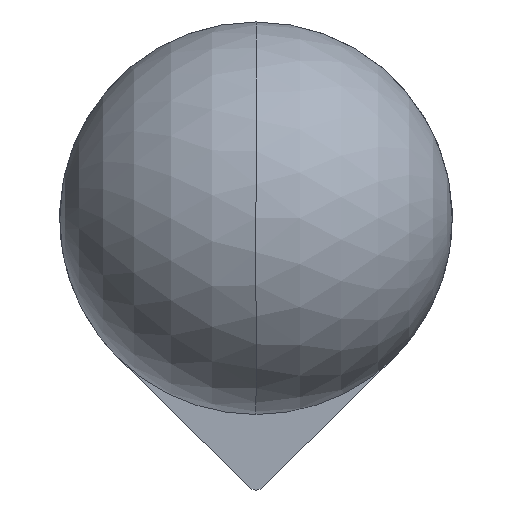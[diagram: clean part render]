
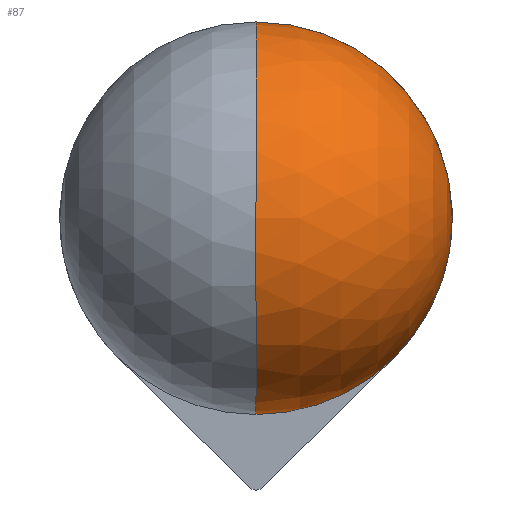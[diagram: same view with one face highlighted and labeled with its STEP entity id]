
A CAD part, front view. The second image highlights one B-rep face of the part: STEP entity #87.
In plain terms, the highlighted spherical face has radius 6.5 mm.
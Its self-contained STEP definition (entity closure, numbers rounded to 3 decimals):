
#4 = AXIS2_PLACEMENT_3D ( 'NONE', #1053, #512, #688 ) ;
#17 = EDGE_CURVE ( 'NONE', #1128, #433, #373, .T. ) ;
#19 = CARTESIAN_POINT ( 'NONE',  ( 0., 39., 0. ) ) ;
#26 = CARTESIAN_POINT ( 'NONE',  ( 0., 32.5, 0. ) ) ;
#47 = ORIENTED_EDGE ( 'NONE', *, *, #800, .T. ) ;
#49 = DIRECTION ( 'NONE',  ( 0., 0., -1. ) ) ;
#81 = AXIS2_PLACEMENT_3D ( 'NONE', #681, #775, #581 ) ;
#87 = ADVANCED_FACE ( 'NONE', ( #272 ), #750, .T. ) ;
#153 = CARTESIAN_POINT ( 'NONE',  ( 0., 32.5, 0. ) ) ;
#230 = CIRCLE ( 'NONE', #676, 6.5 ) ;
#272 = FACE_OUTER_BOUND ( 'NONE', #624, .T. ) ;
#288 = CARTESIAN_POINT ( 'NONE',  ( 0., 32.5, 6.5 ) ) ;
#312 = AXIS2_PLACEMENT_3D ( 'NONE', #153, #323, #49 ) ;
#323 = DIRECTION ( 'NONE',  ( -1., 0., 0. ) ) ;
#332 = CIRCLE ( 'NONE', #582, 6.5 ) ;
#347 = CIRCLE ( 'NONE', #4, 6.5 ) ;
#373 = CIRCLE ( 'NONE', #81, 6.5 ) ;
#403 = VERTEX_POINT ( 'NONE', #19 ) ;
#433 = VERTEX_POINT ( 'NONE', #288 ) ;
#504 = CARTESIAN_POINT ( 'NONE',  ( 0., 32.5, -6.5 ) ) ;
#512 = DIRECTION ( 'NONE',  ( 1., 0., 0. ) ) ;
#526 = CARTESIAN_POINT ( 'NONE',  ( -4.56, 32.5, -4.632 ) ) ;
#581 = DIRECTION ( 'NONE',  ( 0., 0., 1. ) ) ;
#582 = AXIS2_PLACEMENT_3D ( 'NONE', #26, #933, #936 ) ;
#599 = ORIENTED_EDGE ( 'NONE', *, *, #817, .F. ) ;
#624 = EDGE_LOOP ( 'NONE', ( #841, #779, #599, #47 ) ) ;
#676 = AXIS2_PLACEMENT_3D ( 'NONE', #853, #858, #1015 ) ;
#681 = CARTESIAN_POINT ( 'NONE',  ( 0., 32.5, 0. ) ) ;
#688 = DIRECTION ( 'NONE',  ( 0., 0., -1. ) ) ;
#750 = SPHERICAL_SURFACE ( 'NONE', #312, 6.5 ) ;
#775 = DIRECTION ( 'NONE',  ( 0., 1., 0. ) ) ;
#779 = ORIENTED_EDGE ( 'NONE', *, *, #878, .T. ) ;
#800 = EDGE_CURVE ( 'NONE', #1010, #1128, #332, .T. ) ;
#817 = EDGE_CURVE ( 'NONE', #1010, #403, #347, .T. ) ;
#841 = ORIENTED_EDGE ( 'NONE', *, *, #17, .T. ) ;
#853 = CARTESIAN_POINT ( 'NONE',  ( 0., 32.5, 0. ) ) ;
#858 = DIRECTION ( 'NONE',  ( -1., 0., 0. ) ) ;
#878 = EDGE_CURVE ( 'NONE', #433, #403, #230, .T. ) ;
#933 = DIRECTION ( 'NONE',  ( 0., 1., 0. ) ) ;
#936 = DIRECTION ( 'NONE',  ( 0., 0., 1. ) ) ;
#1010 = VERTEX_POINT ( 'NONE', #504 ) ;
#1015 = DIRECTION ( 'NONE',  ( 0., 0., 1. ) ) ;
#1053 = CARTESIAN_POINT ( 'NONE',  ( 0., 32.5, 0. ) ) ;
#1128 = VERTEX_POINT ( 'NONE', #526 ) ;
